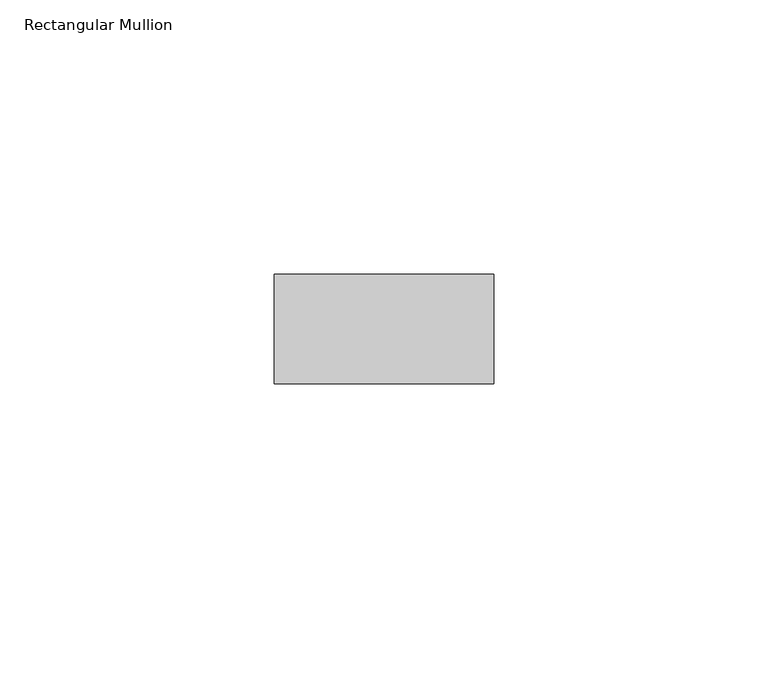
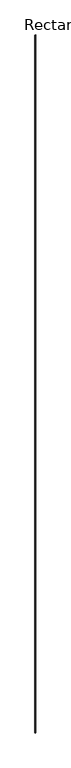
"""IFC4 building model written with IfcOpenShell, lengths in millimetres: member geometry, Rectangular Mullion : RIPA 4x2 cm."""

import ifcopenshell
import ifcopenshell.guid

model = None  # the IFC model being written
_history = None  # IfcOwnerHistory: only IFC2X3 demands one
_inside = {}  # id of a spatial element -> (the spatial element, [elements in it])
_under = {}  # id of a project, library or spatial element -> (it, [spatial elements below it])
_declared = {}  # id of a project -> (the project, [libraries it declares])
_typed = {}  # id of a type object -> (the type object, [elements of that type])
_made_of = {}  # id of a material, layer set ... -> (it, [elements and type objects made of it])


def new_model(schema):
    """Start an empty IFC model of exactly this schema.

    Asked for "IFC4X3", IfcOpenShell would pick the latest addendum, in which some entities
    have other attributes; the version numbers below select the first issue.
    IFC2X3 requires an IfcOwnerHistory on every rooted entity: one is made here for all.
    """
    global model, _history
    if schema == "IFC4X3":
        model = ifcopenshell.file(schema_version=(4, 3, 0, 0))
    else:
        model = ifcopenshell.file(schema=schema)
    _inside.clear()
    _under.clear()
    _declared.clear()
    _typed.clear()
    _made_of.clear()
    _history = None
    if model.schema == "IFC2X3":
        org = make("IfcOrganization", Name="unknown")
        user = make(
            "IfcPersonAndOrganization",
            ThePerson=make("IfcPerson", FamilyName="unknown"),
            TheOrganization=org,
        )
        app = make(
            "IfcApplication",
            ApplicationDeveloper=org,
            Version="unknown",
            ApplicationFullName="unknown",
            ApplicationIdentifier="unknown",
        )
        _history = make(
            "IfcOwnerHistory",
            OwningUser=user,
            OwningApplication=app,
            ChangeAction="ADDED",
            CreationDate=0,
        )
    return model


def make(cls, **values):
    """One entity of the class cls with the attributes given. An attribute that is None is left unset."""
    return model.create_entity(
        cls, **{name: value for name, value in values.items() if value is not None}
    )


def rooted(cls, **values):
    """An entity with a GlobalId (a new one), such as an element, a storey or a relation."""
    return make(cls, GlobalId=ifcopenshell.guid.new(), OwnerHistory=_history, **values)


def si_unit(unit_type, name, prefix=None):
    """IfcSIUnit, for example si_unit("LENGTHUNIT", "METRE", prefix="MILLI")."""
    return make("IfcSIUnit", UnitType=unit_type, Prefix=prefix, Name=name)


def assignment(units):
    """IfcUnitAssignment: the units of a project."""
    return None if units is None else make("IfcUnitAssignment", Units=units)


def point(xyz):
    """IfcCartesianPoint."""
    return None if xyz is None else make("IfcCartesianPoint", Coordinates=xyz)


def direction(xyz):
    """IfcDirection."""
    return None if xyz is None else make("IfcDirection", DirectionRatios=xyz)


def frame(location, z_axis=None, x_axis=None):
    """IfcAxis2Placement3D, a coordinate frame: its origin and axes. An axis left out is left unset."""
    return make(
        "IfcAxis2Placement3D",
        Location=point(location),
        Axis=direction(z_axis),
        RefDirection=direction(x_axis),
    )


def origin():
    """The frame at (0, 0, 0) with its axes left unset."""
    return frame((0.0, 0.0, 0.0))


def place(relative_to, where):
    """IfcLocalPlacement: puts the frame where relative to a parent placement (None: the world)."""
    return make(
        "IfcLocalPlacement", PlacementRelTo=relative_to, RelativePlacement=where
    )


def context(
    kind, dimensions, precision=None, world=None, true_north=None, identifier=None
):
    """IfcGeometricRepresentationContext, for example the 3D "Model" context."""
    return make(
        "IfcGeometricRepresentationContext",
        ContextIdentifier=identifier,
        ContextType=kind,
        CoordinateSpaceDimension=dimensions,
        Precision=precision,
        WorldCoordinateSystem=world,
        TrueNorth=true_north,
    )


def project(units=None, contexts=None):
    """IfcProject with its units and contexts."""
    return rooted(
        "IfcProject",
        Name="project",
        RepresentationContexts=contexts,
        UnitsInContext=assignment(units),
    )


def spatial(cls, under=None, at=None, **own):
    """A site, building, storey or space (cls), placed at a placement, below another one or the project."""
    s = rooted(cls, ObjectPlacement=at, **own)
    if under is not None:
        _under.setdefault(under.id(), (under, []))[1].append(s)
    return s


def polyline(points):
    """IfcPolyline through the points."""
    return make("IfcPolyline", Points=[point(p) for p in points])


def outline(outer, holes=None, kind="AREA"):
    """IfcArbitraryClosedProfileDef: a profile drawn as a closed curve; with holes, ...WithVoids."""
    if holes is None:
        return make("IfcArbitraryClosedProfileDef", ProfileType=kind, OuterCurve=outer)
    return make(
        "IfcArbitraryProfileDefWithVoids",
        ProfileType=kind,
        OuterCurve=outer,
        InnerCurves=holes,
    )


def extrude(swept, where, along, depth):
    """IfcExtrudedAreaSolid: the profile swept, set in the frame where, extruded along a direction by depth."""
    return make(
        "IfcExtrudedAreaSolid",
        SweptArea=swept,
        Position=where,
        ExtrudedDirection=direction(along),
        Depth=depth,
    )


def shape(context_of_items, identifier, shape_type, items):
    """IfcShapeRepresentation: the items that make up one representation, for example the "Body"."""
    return make(
        "IfcShapeRepresentation",
        ContextOfItems=context_of_items,
        RepresentationIdentifier=identifier,
        RepresentationType=shape_type,
        Items=items,
    )


def source(mapping_origin, context_of_items, identifier, shape_type, items):
    """IfcRepresentationMap: a shape defined once, which mapped items show again and again."""
    return make(
        "IfcRepresentationMap",
        MappingOrigin=mapping_origin,
        MappedRepresentation=shape(context_of_items, identifier, shape_type, items),
    )


def transform(
    local_origin,
    x_axis=None,
    y_axis=None,
    z_axis=None,
    scale=None,
    scale2=None,
    scale3=None,
    uniform=True,
):
    """IfcCartesianTransformationOperator3D, or its non-uniform kind. x_axis, y_axis, z_axis: its Axis1, 2, 3."""
    if uniform:
        return make(
            "IfcCartesianTransformationOperator3D",
            Axis1=direction(x_axis),
            Axis2=direction(y_axis),
            LocalOrigin=point(local_origin),
            Scale=scale,
            Axis3=direction(z_axis),
        )
    return make(
        "IfcCartesianTransformationOperator3DnonUniform",
        Axis1=direction(x_axis),
        Axis2=direction(y_axis),
        LocalOrigin=point(local_origin),
        Scale=scale,
        Axis3=direction(z_axis),
        Scale2=scale2,
        Scale3=scale3,
    )


def mapped(mapping_source, mapping_target):
    """IfcMappedItem: shows the shape of a source again, moved by a transform."""
    return make(
        "IfcMappedItem", MappingSource=mapping_source, MappingTarget=mapping_target
    )


def made_of(thing, what):
    """Note that an element or type object is made of a material, layer set ...; save() writes the relation."""
    if what is not None:
        _made_of.setdefault(what.id(), (what, []))[1].append(thing)
    return thing


def element(
    cls,
    number,
    at=None,
    inside=None,
    cuts=None,
    type_object=None,
    material=None,
    context=None,
    identifier="Body",
    shape_type=None,
    held_by="IfcProductDefinitionShape",
    body=None,
    shapes=None,
    **own,
):
    """One element of the class cls, such as IfcWall. Its Tag is "e" and its number.

    at: its placement. inside: the storey or other place that contains it. cuts: it is an
    opening in that element (IfcRelVoidsElement). A single representation is given by context,
    identifier, shape_type and body (its items); several are given by shapes. held_by: the class
    of the entity that holds the representations. save() writes the other relations.
    """
    e = rooted(cls, Tag="e%d" % number, ObjectPlacement=at, **own)
    if body is not None:
        shapes = [shape(context, identifier, shape_type, body)]
    if shapes is not None:
        e.Representation = make(held_by, Representations=shapes)
    if inside is not None:
        _inside.setdefault(inside.id(), (inside, []))[1].append(e)
    if cuts is not None:
        rooted(
            "IfcRelVoidsElement", RelatingBuildingElement=cuts, RelatedOpeningElement=e
        )
    if type_object is not None:
        _typed.setdefault(type_object.id(), (type_object, []))[1].append(e)
    return made_of(e, material)


def aggregate(whole, parts):
    """IfcRelAggregates: a whole, such as a stair, and the parts it consists of."""
    return rooted("IfcRelAggregates", RelatingObject=whole, RelatedObjects=parts)


def save(model, path):
    """Write the relations noted so far, then the file.

    IfcRelAggregates (storeys below a building ...), IfcRelContainedInSpatialStructure (elements
    in a storey), IfcRelDefinesByType, IfcRelAssociatesMaterial and IfcRelDeclares: one each for
    every whole, place, type object, material and project.
    """
    for whole, parts in _under.values():
        aggregate(whole, parts)
    for where, things in _inside.values():
        rooted(
            "IfcRelContainedInSpatialStructure",
            RelatedElements=things,
            RelatingStructure=where,
        )
    for kind, things in _typed.values():
        rooted("IfcRelDefinesByType", RelatedObjects=things, RelatingType=kind)
    for what, things in _made_of.values():
        rooted("IfcRelAssociatesMaterial", RelatedObjects=things, RelatingMaterial=what)
    for by, libraries in _declared.values():
        rooted("IfcRelDeclares", RelatingContext=by, RelatedDefinitions=libraries)
    model.write(path)


def rectangular_mullion_64da74fe(model_context):
    return source(origin(), model_context, "Body", "SweptSolid", [
        extrude(outline(polyline([(20.0, 0.0), (20.0, -20.0), (-20.0, -20.0), (-20.0, 0.0), (20.0, 0.0)])), frame((0.0, 0.0, -40299.5826554), z_axis=(0.0, 0.0, 1.0), x_axis=(1.0, 0.0, 0.0)), (0.0, 0.0, 1.0), 40299.5826554),
    ])


if __name__ == "__main__":
    model = new_model("IFC4")
    model_context = context("Model", 3, world=origin())
    ifc_project = project(units=[si_unit("LENGTHUNIT", "METRE", prefix="MILLI")], contexts=[model_context])
    site = spatial("IfcSite", under=ifc_project)
    building = spatial("IfcBuilding", under=site)
    placement = place(None, origin())
    rectangular_mullion_shape = rectangular_mullion_64da74fe(model_context)
    element("IfcMember", 1, ObjectType="Rectangular Mullion : RIPA 4x2 cm", at=placement, inside=building, context=model_context, shape_type="MappedRepresentation", body=[
        mapped(rectangular_mullion_shape, transform((0.0, 0.0, 0.0), x_axis=(1.0, 0.0, 0.0), y_axis=(0.0, 1.0, 0.0), z_axis=(0.0, 0.0, 1.0))),
    ])
    save(model, "model.ifc")
